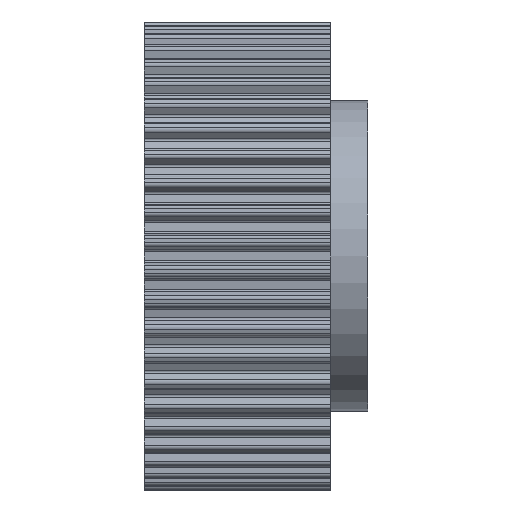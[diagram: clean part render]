
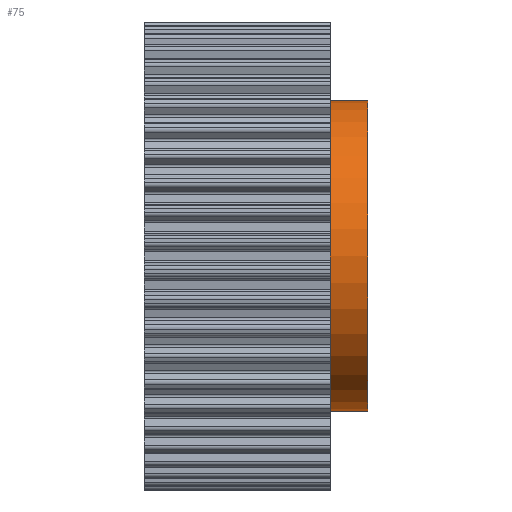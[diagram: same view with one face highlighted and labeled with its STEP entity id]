
A CAD part, front view. The second image highlights one B-rep face of the part: STEP entity #75.
In plain terms, the highlighted cylindrical face has radius 25 mm (diameter 50 mm), a full revolution.
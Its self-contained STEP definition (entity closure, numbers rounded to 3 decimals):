
#75 = ADVANCED_FACE( '', ( #465, #466 ), #467, .T. );
#465 = FACE_OUTER_BOUND( '', #1248, .T. );
#466 = FACE_OUTER_BOUND( '', #1249, .T. );
#467 = CYLINDRICAL_SURFACE( '', #1250, 25. );
#1248 = EDGE_LOOP( '', ( #2031 ) );
#1249 = EDGE_LOOP( '', ( #2032 ) );
#1250 = AXIS2_PLACEMENT_3D( '', #2033, #2034, #2035 );
#2031 = ORIENTED_EDGE( '', *, *, #5510, .F. );
#2032 = ORIENTED_EDGE( '', *, *, #5511, .T. );
#2033 = CARTESIAN_POINT( '', ( 36., 0., 0. ) );
#2034 = DIRECTION( '', ( -1., 0., 0. ) );
#2035 = DIRECTION( '', ( 0., 0., -1. ) );
#5510 = EDGE_CURVE( '', #6666, #6666, #6667, .T. );
#5511 = EDGE_CURVE( '', #6668, #6668, #6669, .T. );
#6666 = VERTEX_POINT( '', #8594 );
#6667 = CIRCLE( '', #8595, 25. );
#6668 = VERTEX_POINT( '', #8596 );
#6669 = CIRCLE( '', #8597, 25. );
#8594 = CARTESIAN_POINT( '', ( 36., 0., -25. ) );
#8595 = AXIS2_PLACEMENT_3D( '', #11194, #11195, #11196 );
#8596 = CARTESIAN_POINT( '', ( 30., 0., -25. ) );
#8597 = AXIS2_PLACEMENT_3D( '', #11197, #11198, #11199 );
#11194 = CARTESIAN_POINT( '', ( 36., 0., 0. ) );
#11195 = DIRECTION( '', ( 1., 0., 0. ) );
#11196 = DIRECTION( '', ( 0., 0., -1. ) );
#11197 = CARTESIAN_POINT( '', ( 30., 0., 0. ) );
#11198 = DIRECTION( '', ( 1., 0., 0. ) );
#11199 = DIRECTION( '', ( 0., 0., -1. ) );
